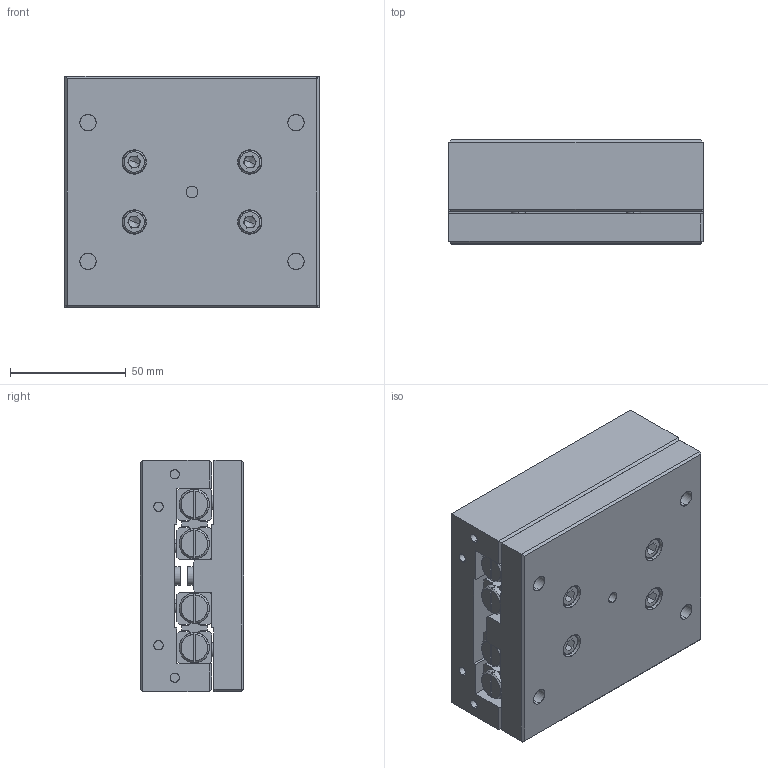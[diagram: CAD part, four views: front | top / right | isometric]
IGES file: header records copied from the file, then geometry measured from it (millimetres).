
Start section: SolidWorks IGES file using analytic representation for surfaces
Global section: file name: C:\Documents and Settings\IanO.IANOHOME\My Documents\Wix and Auto CAD Work\CAD Models\Parametric Models\Auto Models\L1020\L1020_IGES\L1020.100-110.igs; native system: SolidWorks 2009; preprocessor: SolidWorks 2009; author: IanO; date: 110922.162825; units: millimetre
Bounding box: 110 x 45 x 100 mm (x, y, z)
Surface area: 114916.9 mm2 (no closed solid volume)
Topology: 0 solids, 0 shells, 832 faces, 11544 edges, 11524 vertices
Faces by surface type: bspline 540, revolution 292
